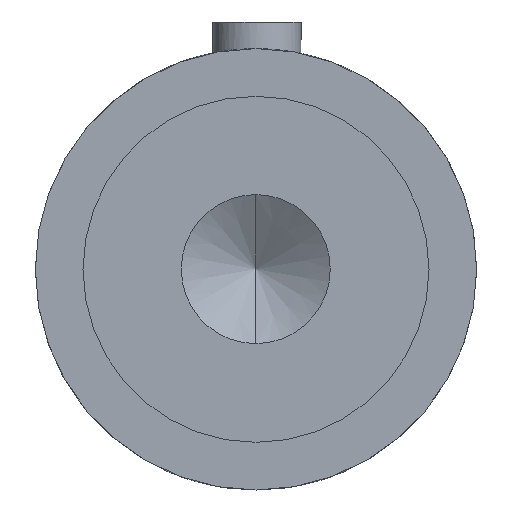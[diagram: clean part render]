
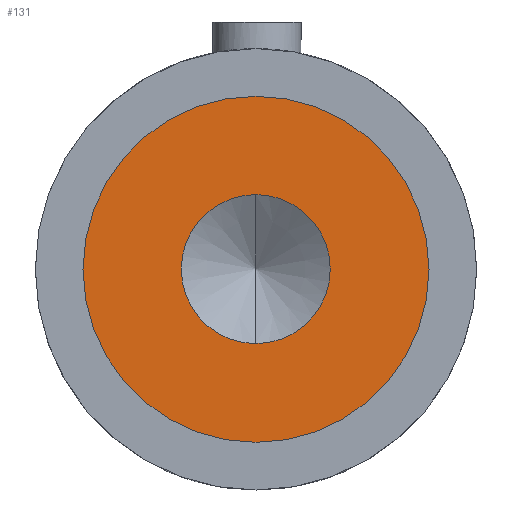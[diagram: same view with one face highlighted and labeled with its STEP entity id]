
A CAD part, front view. The second image highlights one B-rep face of the part: STEP entity #131.
In plain terms, the highlighted planar face has unit normal (0, -1, 0).
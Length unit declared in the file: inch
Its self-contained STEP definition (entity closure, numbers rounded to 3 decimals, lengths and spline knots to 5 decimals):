
#129 = EDGE_LOOP ( 'NONE', ( #292, #145 ) ) ;
#131 = ADVANCED_FACE ( 'NONE', ( #512, #511 ), #601, .F. ) ;
#132 = ORIENTED_EDGE ( 'NONE', *, *, #140, .F. ) ;
#137 = EDGE_LOOP ( 'NONE', ( #132, #149 ) ) ;
#140 = EDGE_CURVE ( 'NONE', #392, #379, #625, .T. ) ;
#143 = EDGE_CURVE ( 'NONE', #418, #415, #619, .T. ) ;
#145 = ORIENTED_EDGE ( 'NONE', *, *, #417, .F. ) ;
#149 = ORIENTED_EDGE ( 'NONE', *, *, #391, .F. ) ;
#292 = ORIENTED_EDGE ( 'NONE', *, *, #143, .F. ) ;
#379 = VERTEX_POINT ( 'NONE', #1424 ) ;
#391 = EDGE_CURVE ( 'NONE', #379, #392, #1593, .T. ) ;
#392 = VERTEX_POINT ( 'NONE', #1588 ) ;
#415 = VERTEX_POINT ( 'NONE', #1718 ) ;
#417 = EDGE_CURVE ( 'NONE', #415, #418, #1717, .T. ) ;
#418 = VERTEX_POINT ( 'NONE', #1712 ) ;
#511 = FACE_BOUND ( 'NONE', #129, .T. ) ;
#512 = FACE_OUTER_BOUND ( 'NONE', #137, .T. ) ;
#595 = DIRECTION ( 'NONE',  ( 0., 0., 1. ) ) ;
#596 = DIRECTION ( 'NONE',  ( 0., 1., 0. ) ) ;
#597 = CARTESIAN_POINT ( 'NONE',  ( -0.00905, -1.60547, -0.10615 ) ) ;
#598 = AXIS2_PLACEMENT_3D ( 'NONE', #597, #596, #595 ) ;
#601 = PLANE ( 'NONE',  #598 ) ;
#615 = DIRECTION ( 'NONE',  ( 0., 0., -1. ) ) ;
#616 = DIRECTION ( 'NONE',  ( 0., -1., 0. ) ) ;
#617 = CARTESIAN_POINT ( 'NONE',  ( -0.00969, -1.60547, -0.10551 ) ) ;
#618 = AXIS2_PLACEMENT_3D ( 'NONE', #617, #616, #615 ) ;
#619 = CIRCLE ( 'NONE', #618, 0.21095 ) ;
#621 = DIRECTION ( 'NONE',  ( 0., 0., -1. ) ) ;
#622 = DIRECTION ( 'NONE',  ( 0., 1., 0. ) ) ;
#623 = CARTESIAN_POINT ( 'NONE',  ( -0.00905, -1.60547, -0.10615 ) ) ;
#624 = AXIS2_PLACEMENT_3D ( 'NONE', #623, #622, #621 ) ;
#625 = CIRCLE ( 'NONE', #624, 0.49 ) ;
#1424 = CARTESIAN_POINT ( 'NONE',  ( -0.00905, -1.60547, 0.38385 ) ) ;
#1588 = CARTESIAN_POINT ( 'NONE',  ( -0.00905, -1.60547, -0.59615 ) ) ;
#1589 = DIRECTION ( 'NONE',  ( 0., 0., -1. ) ) ;
#1590 = DIRECTION ( 'NONE',  ( 0., 1., 0. ) ) ;
#1591 = CARTESIAN_POINT ( 'NONE',  ( -0.00905, -1.60547, -0.10615 ) ) ;
#1592 = AXIS2_PLACEMENT_3D ( 'NONE', #1591, #1590, #1589 ) ;
#1593 = CIRCLE ( 'NONE', #1592, 0.49 ) ;
#1712 = CARTESIAN_POINT ( 'NONE',  ( -0.00969, -1.60547, -0.31646 ) ) ;
#1713 = DIRECTION ( 'NONE',  ( 0., 0., -1. ) ) ;
#1714 = DIRECTION ( 'NONE',  ( 0., -1., 0. ) ) ;
#1715 = CARTESIAN_POINT ( 'NONE',  ( -0.00969, -1.60547, -0.10551 ) ) ;
#1716 = AXIS2_PLACEMENT_3D ( 'NONE', #1715, #1714, #1713 ) ;
#1717 = CIRCLE ( 'NONE', #1716, 0.21095 ) ;
#1718 = CARTESIAN_POINT ( 'NONE',  ( -0.00969, -1.60547, 0.10544 ) ) ;
